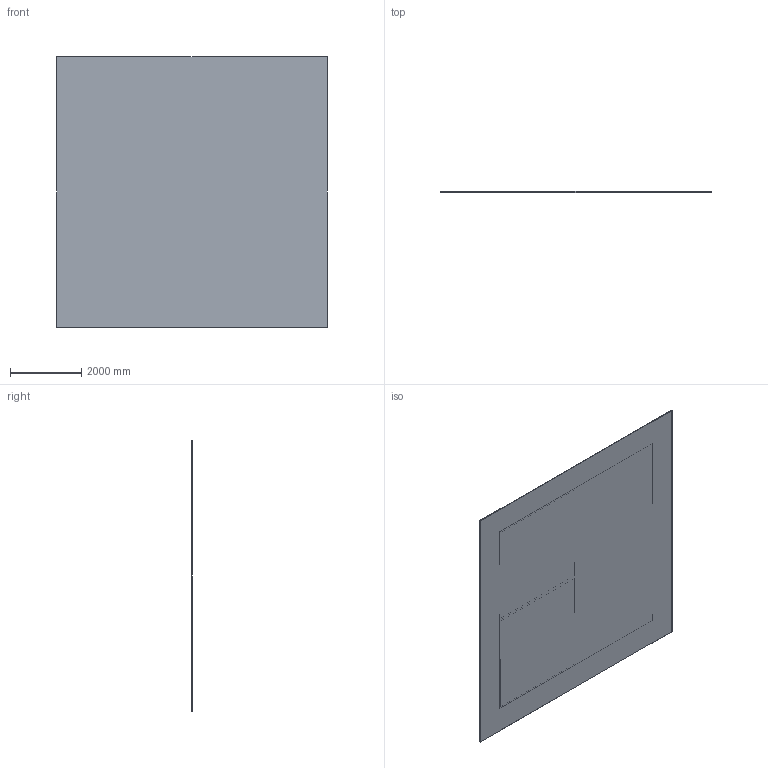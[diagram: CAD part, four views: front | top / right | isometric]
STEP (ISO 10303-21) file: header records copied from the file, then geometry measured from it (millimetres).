
FILE_DESCRIPTION(/* description */ (''),/* implementation_level */ '2;1');
FILE_NAME(/* name */ 'D:\fieldcad\floor.stp',/* time_stamp */ '2023-08-01T19:08:58-05:00',/* author */ ('User'),/* organization */ (''),/* preprocessor_version */ 'ST-DEVELOPER v18.1',/* originating_system */ 'Autodesk Inventor 2022',/* authorisation */ '');
FILE_SCHEMA (('AUTOMOTIVE_DESIGN { 1 0 10303 214 3 1 1 }'));
Length unit declared in the file: inch
Products named in the file (1): floor
Bounding box: 7620 x 25.65 x 7620 mm (x, y, z)
Volume: 1475450009.4 mm3; surface area: 116921087.7 mm2
Topology: 1 solids, 1 shells, 30 faces, 78 edges, 52 vertices
Faces by surface type: plane 30
Entity records: 987 total; most frequent: CARTESIAN_POINT 161, ORIENTED_EDGE 156, DIRECTION 140, LINE 78, VECTOR 78, EDGE_CURVE 78, VERTEX_POINT 52, EDGE_LOOP 32
